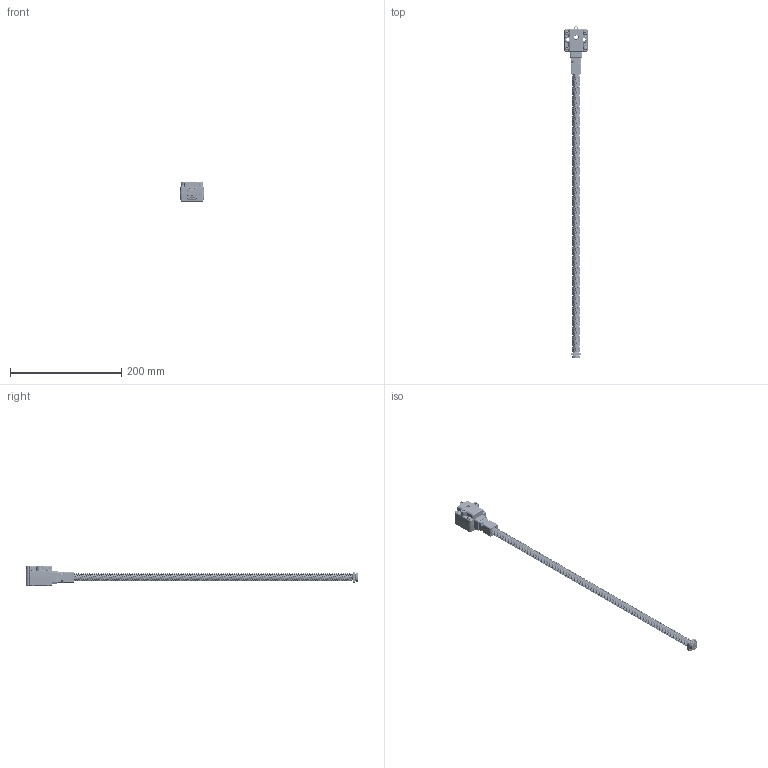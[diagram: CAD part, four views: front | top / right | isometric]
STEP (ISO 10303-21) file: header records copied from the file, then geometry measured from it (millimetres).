
FILE_DESCRIPTION (( 'STEP AP203' ), '1' );
FILE_NAME ('3D_TBS1.STEP', '2022-07-13T11:05:32', ( '' ), ( '' ), 'SwSTEP 2.0', 'SolidWorks 2015', '' );
FILE_SCHEMA (( 'CONFIG_CONTROL_DESIGN' ));
Products named in the file (1): 3D_TBS1
Bounding box: 42 x 597.55 x 37 mm (x, y, z)
Volume: 106474 mm3; surface area: 76012.6 mm2
Topology: 16 solids, 17 shells, 3124 faces, 8701 edges, 5520 vertices
Faces by surface type: cylinder 1550, bspline 892, plane 495, cone 143, sphere 24, torus 20
Entity records: 207096 total; most frequent: CARTESIAN_POINT 139653, ORIENTED_EDGE 17134, DIRECTION 11159, EDGE_CURVE 8567, VERTEX_POINT 5518, AXIS2_PLACEMENT_3D 4218, EDGE_LOOP 3223, ADVANCED_FACE 3124
